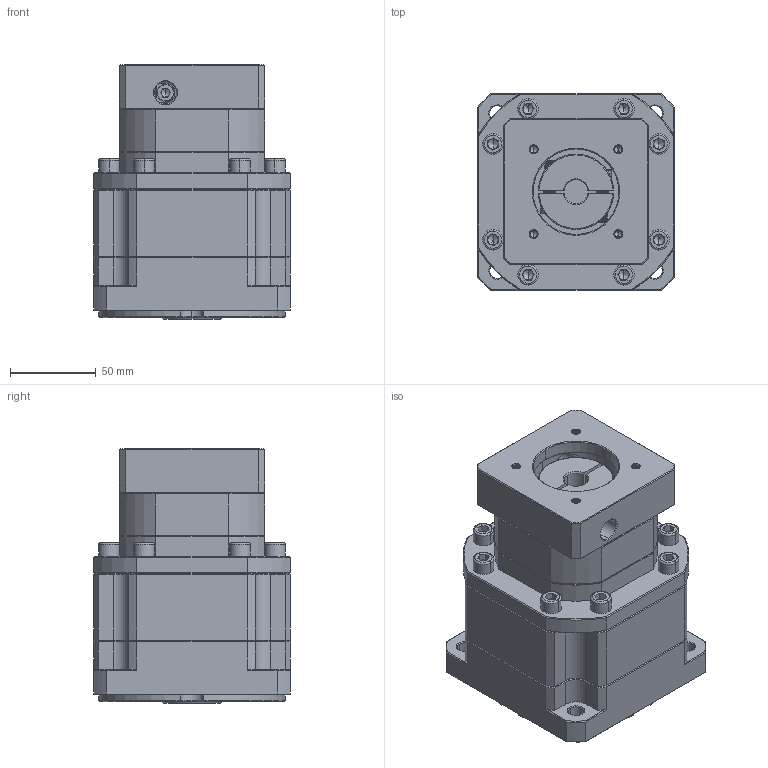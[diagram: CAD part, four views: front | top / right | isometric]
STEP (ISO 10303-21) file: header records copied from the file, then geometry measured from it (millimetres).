
FILE_DESCRIPTION (( 'STEP AP214' ), '1' );
FILE_NAME ('ZB115A-K25-L2-P2-14-50-70-M5.step', '2023-08-26T10:03:58', ( '' ), ( '' ), 'SwSTEP 2.0', 'SolidWorks 2016', '' );
FILE_SCHEMA (( 'AUTOMOTIVE_DESIGN' ));
Length unit declared in the file: millimetre
Products named in the file (1): ZB115A-K25-L2-P2-14-50-70-M5
Bounding box: 115 x 115 x 149 mm (x, y, z)
Volume: 1332671.3 mm3; surface area: 131308.7 mm2
Topology: 5 solids, 6 shells, 2364 faces, 6223 edges, 3961 vertices
Faces by surface type: plane 1179, bspline 433, cylinder 393, cone 359
Entity records: 123576 total; most frequent: CARTESIAN_POINT 42651, ORIENTED_EDGE 12374, DIRECTION 9812, EDGE_CURVE 6187, VECTOR 4004, LINE 4004, VERTEX_POINT 3961, AXIS2_PLACEMENT_3D 2904
